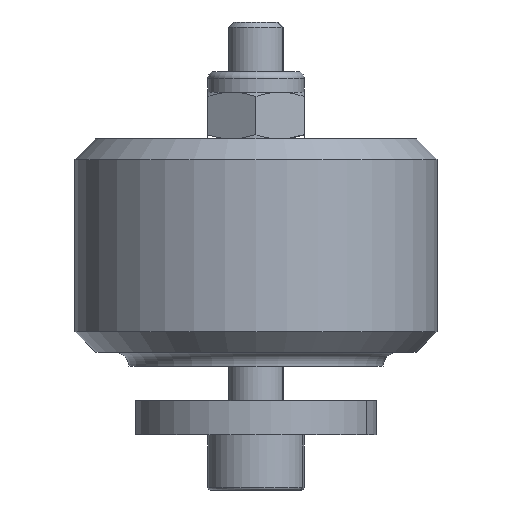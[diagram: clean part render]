
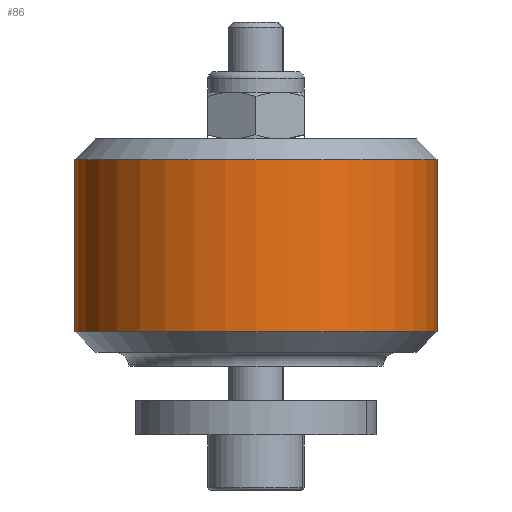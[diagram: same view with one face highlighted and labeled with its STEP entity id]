
A CAD part, front view. The second image highlights one B-rep face of the part: STEP entity #86.
In plain terms, the highlighted cylindrical face has radius 13.15 mm (diameter 26.3 mm), a partial arc.
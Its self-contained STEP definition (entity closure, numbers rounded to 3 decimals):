
#86 = ADVANCED_FACE ( 'NONE', ( #427 ), #1289, .T. ) ;
#244 = DIRECTION ( 'NONE',  ( 1., 0., 0. ) ) ;
#256 = CARTESIAN_POINT ( 'NONE',  ( 0., 0., -5.75 ) ) ;
#265 = DIRECTION ( 'NONE',  ( 0., 0., 1. ) ) ;
#413 = CARTESIAN_POINT ( 'NONE',  ( 13.15, 0., 6.75 ) ) ;
#427 = FACE_OUTER_BOUND ( 'NONE', #749, .T. ) ;
#439 = DIRECTION ( 'NONE',  ( 0., 0., 1. ) ) ;
#470 = VECTOR ( 'NONE', #265, 1000. ) ;
#522 = EDGE_CURVE ( 'NONE', #1263, #2063, #2602, .T. ) ;
#749 = EDGE_LOOP ( 'NONE', ( #1825, #2789, #1319, #1420 ) ) ;
#785 = DIRECTION ( 'NONE',  ( 0., 0., -1. ) ) ;
#893 = CARTESIAN_POINT ( 'NONE',  ( 0., 0., 8.25 ) ) ;
#905 = DIRECTION ( 'NONE',  ( 0., 0., 1. ) ) ;
#919 = AXIS2_PLACEMENT_3D ( 'NONE', #2508, #785, #1202 ) ;
#1026 = DIRECTION ( 'NONE',  ( 0., 0., 1. ) ) ;
#1115 = CARTESIAN_POINT ( 'NONE',  ( -13.15, 0., 8.25 ) ) ;
#1202 = DIRECTION ( 'NONE',  ( -1., 0., 0. ) ) ;
#1227 = EDGE_CURVE ( 'NONE', #1327, #2063, #2727, .T. ) ;
#1234 = CARTESIAN_POINT ( 'NONE',  ( 13.15, 0., 8.25 ) ) ;
#1263 = VERTEX_POINT ( 'NONE', #2288 ) ;
#1289 = CYLINDRICAL_SURFACE ( 'NONE', #1463, 13.15 ) ;
#1319 = ORIENTED_EDGE ( 'NONE', *, *, #2457, .T. ) ;
#1327 = VERTEX_POINT ( 'NONE', #413 ) ;
#1420 = ORIENTED_EDGE ( 'NONE', *, *, #1227, .T. ) ;
#1444 = CARTESIAN_POINT ( 'NONE',  ( -13.15, 0., 6.75 ) ) ;
#1463 = AXIS2_PLACEMENT_3D ( 'NONE', #893, #439, #244 ) ;
#1494 = EDGE_CURVE ( 'NONE', #1263, #2667, #2277, .T. ) ;
#1589 = AXIS2_PLACEMENT_3D ( 'NONE', #256, #905, #1768 ) ;
#1597 = VECTOR ( 'NONE', #1026, 1000. ) ;
#1768 = DIRECTION ( 'NONE',  ( 1., 0., 0. ) ) ;
#1825 = ORIENTED_EDGE ( 'NONE', *, *, #522, .F. ) ;
#2063 = VERTEX_POINT ( 'NONE', #1444 ) ;
#2079 = LINE ( 'NONE', #1234, #1597 ) ;
#2277 = CIRCLE ( 'NONE', #1589, 13.15 ) ;
#2288 = CARTESIAN_POINT ( 'NONE',  ( -13.15, 0., -5.75 ) ) ;
#2457 = EDGE_CURVE ( 'NONE', #2667, #1327, #2079, .T. ) ;
#2508 = CARTESIAN_POINT ( 'NONE',  ( 0., 0., 6.75 ) ) ;
#2602 = LINE ( 'NONE', #1115, #470 ) ;
#2609 = CARTESIAN_POINT ( 'NONE',  ( 13.15, 0., -5.75 ) ) ;
#2667 = VERTEX_POINT ( 'NONE', #2609 ) ;
#2727 = CIRCLE ( 'NONE', #919, 13.15 ) ;
#2789 = ORIENTED_EDGE ( 'NONE', *, *, #1494, .T. ) ;
